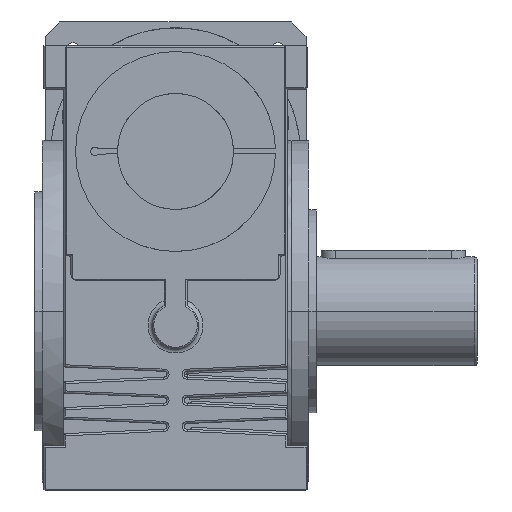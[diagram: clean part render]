
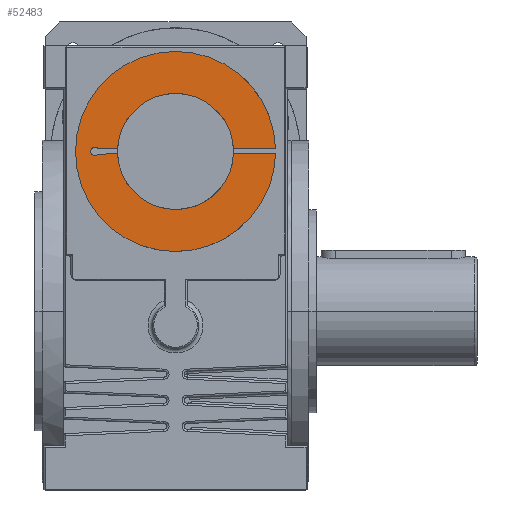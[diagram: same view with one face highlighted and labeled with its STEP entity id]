
A CAD part, top view. The second image highlights one B-rep face of the part: STEP entity #52483.
In plain terms, the highlighted planar face has unit normal (0, 0, 1).
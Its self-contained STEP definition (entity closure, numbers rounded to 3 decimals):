
#381 = ORIENTED_EDGE ( 'NONE', *, *, #41964, .T. ) ;
#1753 = CARTESIAN_POINT ( 'NONE',  ( 0., 110., 151.75 ) ) ;
#1883 = EDGE_CURVE ( 'NONE', #57914, #20362, #11824, .T. ) ;
#1888 = ORIENTED_EDGE ( 'NONE', *, *, #18071, .T. ) ;
#2621 = AXIS2_PLACEMENT_3D ( 'NONE', #57105, #4798, #15447 ) ;
#2982 = DIRECTION ( 'NONE',  ( 1., 0., 0. ) ) ;
#3303 = VERTEX_POINT ( 'NONE', #42745 ) ;
#4798 = DIRECTION ( 'NONE',  ( 0., 0., -1. ) ) ;
#5245 = VERTEX_POINT ( 'NONE', #22285 ) ;
#5490 = AXIS2_PLACEMENT_3D ( 'NONE', #45757, #8230, #51043 ) ;
#6349 = CARTESIAN_POINT ( 'NONE',  ( -53.455, 111.762, 151.75 ) ) ;
#6373 = CIRCLE ( 'NONE', #5490, 40.024 ) ;
#6746 = CIRCLE ( 'NONE', #32487, 69. ) ;
#7387 = DIRECTION ( 'NONE',  ( 0., 0., -1. ) ) ;
#8230 = DIRECTION ( 'NONE',  ( 0., 0., -1. ) ) ;
#9406 = CIRCLE ( 'NONE', #65669, 2.872 ) ;
#9970 = LINE ( 'NONE', #25120, #55304 ) ;
#11073 = DIRECTION ( 'NONE',  ( 1., 0., 0. ) ) ;
#11824 = CIRCLE ( 'NONE', #17559, 69. ) ;
#12033 = CARTESIAN_POINT ( 'NONE',  ( 0., 110., 151.75 ) ) ;
#12804 = ORIENTED_EDGE ( 'NONE', *, *, #56317, .T. ) ;
#13435 = VERTEX_POINT ( 'NONE', #43577 ) ;
#14361 = ORIENTED_EDGE ( 'NONE', *, *, #62539, .T. ) ;
#15447 = DIRECTION ( 'NONE',  ( 1., 0., 0. ) ) ;
#15472 = VERTEX_POINT ( 'NONE', #38235 ) ;
#15732 = VECTOR ( 'NONE', #27330, 1000. ) ;
#16182 = CARTESIAN_POINT ( 'NONE',  ( 0., 110., 151.75 ) ) ;
#16569 = ORIENTED_EDGE ( 'NONE', *, *, #34976, .T. ) ;
#16777 = ORIENTED_EDGE ( 'NONE', *, *, #50571, .T. ) ;
#16788 = ORIENTED_EDGE ( 'NONE', *, *, #58307, .T. ) ;
#17213 = CARTESIAN_POINT ( 'NONE',  ( 39.985, 111.762, 151.75 ) ) ;
#17559 = AXIS2_PLACEMENT_3D ( 'NONE', #55360, #39273, #65747 ) ;
#18071 = EDGE_CURVE ( 'NONE', #5245, #38868, #9970, .T. ) ;
#18175 = CARTESIAN_POINT ( 'NONE',  ( 68.977, 111.762, 151.75 ) ) ;
#20362 = VERTEX_POINT ( 'NONE', #42791 ) ;
#21139 = LINE ( 'NONE', #45376, #57374 ) ;
#22285 = CARTESIAN_POINT ( 'NONE',  ( -39.988, 108.288, 151.75 ) ) ;
#23081 = DIRECTION ( 'NONE',  ( 1., 0., 0. ) ) ;
#25120 = CARTESIAN_POINT ( 'NONE',  ( -53.455, 108.238, 151.75 ) ) ;
#27330 = DIRECTION ( 'NONE',  ( 1., 0., 0. ) ) ;
#27956 = ORIENTED_EDGE ( 'NONE', *, *, #1883, .T. ) ;
#28864 = LINE ( 'NONE', #6349, #15732 ) ;
#29010 = LINE ( 'NONE', #40403, #33991 ) ;
#32487 = AXIS2_PLACEMENT_3D ( 'NONE', #1753, #58331, #23081 ) ;
#33884 = CARTESIAN_POINT ( 'NONE',  ( -55.723, 110., 151.75 ) ) ;
#33898 = CARTESIAN_POINT ( 'NONE',  ( -53.455, 108.238, 151.75 ) ) ;
#33991 = VECTOR ( 'NONE', #34643, 1000. ) ;
#34643 = DIRECTION ( 'NONE',  ( -1., -0.004, 0. ) ) ;
#34976 = EDGE_CURVE ( 'NONE', #20362, #15472, #6746, .T. ) ;
#35348 = VERTEX_POINT ( 'NONE', #67104 ) ;
#36316 = VERTEX_POINT ( 'NONE', #17213 ) ;
#38235 = CARTESIAN_POINT ( 'NONE',  ( 68.988, 108.693, 151.75 ) ) ;
#38868 = VERTEX_POINT ( 'NONE', #33898 ) ;
#39273 = DIRECTION ( 'NONE',  ( 0., 0., 1. ) ) ;
#40403 = CARTESIAN_POINT ( 'NONE',  ( 39.999, 108.585, 151.75 ) ) ;
#41964 = EDGE_CURVE ( 'NONE', #36316, #57914, #21139, .T. ) ;
#42654 = EDGE_CURVE ( 'NONE', #15472, #51857, #29010, .T. ) ;
#42745 = CARTESIAN_POINT ( 'NONE',  ( -58.595, 110., 151.75 ) ) ;
#42791 = CARTESIAN_POINT ( 'NONE',  ( -69., 110., 151.75 ) ) ;
#43577 = CARTESIAN_POINT ( 'NONE',  ( -53.455, 111.762, 151.75 ) ) ;
#43977 = ORIENTED_EDGE ( 'NONE', *, *, #60045, .T. ) ;
#45376 = CARTESIAN_POINT ( 'NONE',  ( 39.985, 111.762, 151.75 ) ) ;
#45757 = CARTESIAN_POINT ( 'NONE',  ( 0., 110., 151.75 ) ) ;
#46284 = DIRECTION ( 'NONE',  ( -1., -0.004, 0. ) ) ;
#47762 = EDGE_LOOP ( 'NONE', ( #43977, #1888, #14361, #12804, #16788, #16777, #381, #27956, #16569, #58316 ) ) ;
#49083 = DIRECTION ( 'NONE',  ( 1., 0., 0. ) ) ;
#50206 = DIRECTION ( 'NONE',  ( 1., 0., 0. ) ) ;
#50571 = EDGE_CURVE ( 'NONE', #35348, #36316, #53591, .T. ) ;
#51043 = DIRECTION ( 'NONE',  ( 1., 0., 0. ) ) ;
#51857 = VERTEX_POINT ( 'NONE', #60972 ) ;
#52483 = ADVANCED_FACE ( 'NONE', ( #59098 ), #59011, .T. ) ;
#53011 = DIRECTION ( 'NONE',  ( 0., 0., -1. ) ) ;
#53591 = CIRCLE ( 'NONE', #58303, 40.024 ) ;
#54398 = DIRECTION ( 'NONE',  ( 0., 0., 1. ) ) ;
#55304 = VECTOR ( 'NONE', #46284, 1000. ) ;
#55360 = CARTESIAN_POINT ( 'NONE',  ( 0., 110., 151.75 ) ) ;
#56317 = EDGE_CURVE ( 'NONE', #3303, #13435, #63524, .T. ) ;
#57105 = CARTESIAN_POINT ( 'NONE',  ( -55.723, 110., 151.75 ) ) ;
#57374 = VECTOR ( 'NONE', #2982, 1000. ) ;
#57914 = VERTEX_POINT ( 'NONE', #18175 ) ;
#58303 = AXIS2_PLACEMENT_3D ( 'NONE', #16182, #53011, #11073 ) ;
#58307 = EDGE_CURVE ( 'NONE', #13435, #35348, #28864, .T. ) ;
#58316 = ORIENTED_EDGE ( 'NONE', *, *, #42654, .T. ) ;
#58331 = DIRECTION ( 'NONE',  ( 0., 0., 1. ) ) ;
#58391 = AXIS2_PLACEMENT_3D ( 'NONE', #12033, #54398, #49083 ) ;
#59011 = PLANE ( 'NONE',  #58391 ) ;
#59098 = FACE_OUTER_BOUND ( 'NONE', #47762, .T. ) ;
#60045 = EDGE_CURVE ( 'NONE', #51857, #5245, #6373, .T. ) ;
#60972 = CARTESIAN_POINT ( 'NONE',  ( 39.999, 108.585, 151.75 ) ) ;
#62539 = EDGE_CURVE ( 'NONE', #38868, #3303, #9406, .T. ) ;
#63524 = CIRCLE ( 'NONE', #2621, 2.872 ) ;
#65669 = AXIS2_PLACEMENT_3D ( 'NONE', #33884, #7387, #50206 ) ;
#65747 = DIRECTION ( 'NONE',  ( 1., 0., 0. ) ) ;
#67104 = CARTESIAN_POINT ( 'NONE',  ( -39.985, 111.762, 151.75 ) ) ;
